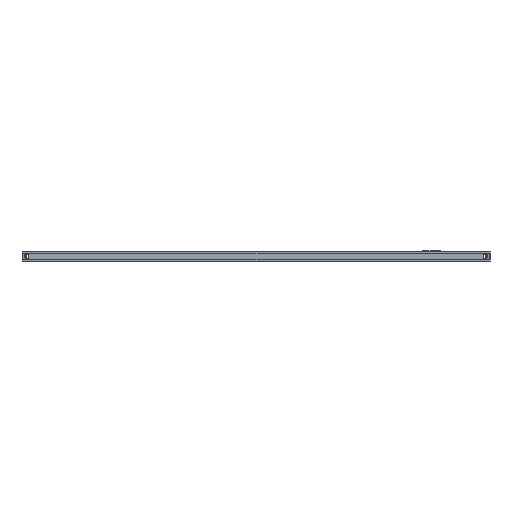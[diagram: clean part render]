
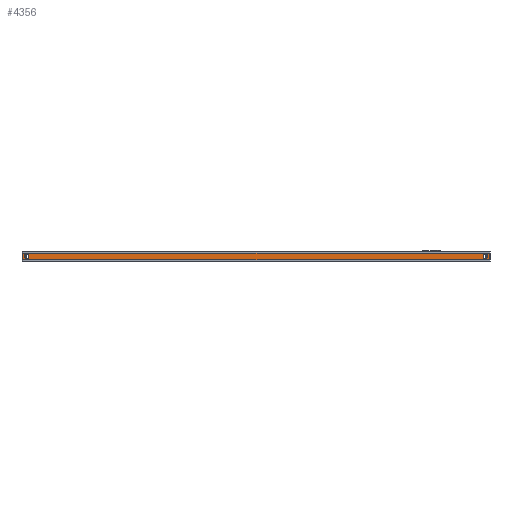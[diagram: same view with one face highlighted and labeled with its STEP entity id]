
A CAD part, left-side view. The second image highlights one B-rep face of the part: STEP entity #4356.
In plain terms, the highlighted planar face has unit normal (-1, 0, 0).
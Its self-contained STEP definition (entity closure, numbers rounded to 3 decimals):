
#161 = DIRECTION ( 'NONE',  ( 0., 0., -1. ) ) ;
#272 = DIRECTION ( 'NONE',  ( 0., 1., 0. ) ) ;
#323 = DIRECTION ( 'NONE',  ( 1., 0., 0. ) ) ;
#491 = AXIS2_PLACEMENT_3D ( 'NONE', #1813, #8170, #272 ) ;
#840 = ORIENTED_EDGE ( 'NONE', *, *, #3461, .F. ) ;
#972 = CARTESIAN_POINT ( 'NONE',  ( -295., 304., -8.5 ) ) ;
#985 = LINE ( 'NONE', #8936, #2738 ) ;
#1127 = DIRECTION ( 'NONE',  ( 0., 1., 0. ) ) ;
#1131 = EDGE_CURVE ( 'NONE', #10161, #7182, #3348, .T. ) ;
#1221 = CARTESIAN_POINT ( 'NONE',  ( -295., 304., -8.5 ) ) ;
#1280 = EDGE_CURVE ( 'NONE', #5041, #7681, #6457, .T. ) ;
#1375 = DIRECTION ( 'NONE',  ( 0., -1., 0. ) ) ;
#1813 = CARTESIAN_POINT ( 'NONE',  ( -295., -299., -4. ) ) ;
#1905 = DIRECTION ( 'NONE',  ( 0., 0., 1. ) ) ;
#1982 = ORIENTED_EDGE ( 'NONE', *, *, #3757, .T. ) ;
#2335 = VERTEX_POINT ( 'NONE', #4964 ) ;
#2480 = DIRECTION ( 'NONE',  ( -1., 0., 0. ) ) ;
#2547 = AXIS2_PLACEMENT_3D ( 'NONE', #3952, #2480, #8766 ) ;
#2651 = EDGE_CURVE ( 'NONE', #7182, #10161, #5863, .T. ) ;
#2713 = DIRECTION ( 'NONE',  ( -1., 0., 0. ) ) ;
#2738 = VECTOR ( 'NONE', #9766, 1000. ) ;
#2845 = ORIENTED_EDGE ( 'NONE', *, *, #3478, .F. ) ;
#3001 = CARTESIAN_POINT ( 'NONE',  ( -295., 299., -4. ) ) ;
#3348 = CIRCLE ( 'NONE', #2547, 3. ) ;
#3426 = EDGE_LOOP ( 'NONE', ( #4637, #3428 ) ) ;
#3428 = ORIENTED_EDGE ( 'NONE', *, *, #2651, .F. ) ;
#3461 = EDGE_CURVE ( 'NONE', #2335, #9197, #8077, .T. ) ;
#3478 = EDGE_CURVE ( 'NONE', #5041, #4989, #3764, .T. ) ;
#3610 = ORIENTED_EDGE ( 'NONE', *, *, #3769, .F. ) ;
#3757 = EDGE_CURVE ( 'NONE', #7681, #3786, #985, .T. ) ;
#3764 = LINE ( 'NONE', #4519, #7724 ) ;
#3769 = EDGE_CURVE ( 'NONE', #9197, #2335, #5089, .T. ) ;
#3786 = VERTEX_POINT ( 'NONE', #5813 ) ;
#3952 = CARTESIAN_POINT ( 'NONE',  ( -295., -299., -4. ) ) ;
#4356 = ADVANCED_FACE ( 'NONE', ( #7089, #5829, #7835 ), #8815, .F. ) ;
#4519 = CARTESIAN_POINT ( 'NONE',  ( -295., 305., 0. ) ) ;
#4637 = ORIENTED_EDGE ( 'NONE', *, *, #1131, .F. ) ;
#4938 = CARTESIAN_POINT ( 'NONE',  ( -295., 299., -4. ) ) ;
#4964 = CARTESIAN_POINT ( 'NONE',  ( -295., 302., -4. ) ) ;
#4989 = VERTEX_POINT ( 'NONE', #6245 ) ;
#5041 = VERTEX_POINT ( 'NONE', #6204 ) ;
#5089 = CIRCLE ( 'NONE', #9668, 3. ) ;
#5092 = DIRECTION ( 'NONE',  ( 0., -1., 0. ) ) ;
#5695 = VECTOR ( 'NONE', #161, 1000. ) ;
#5813 = CARTESIAN_POINT ( 'NONE',  ( -295., -304., -8.5 ) ) ;
#5829 = FACE_BOUND ( 'NONE', #6936, .T. ) ;
#5863 = CIRCLE ( 'NONE', #491, 3. ) ;
#6088 = DIRECTION ( 'NONE',  ( 0., 1., 0. ) ) ;
#6204 = CARTESIAN_POINT ( 'NONE',  ( -295., 304., 0. ) ) ;
#6245 = CARTESIAN_POINT ( 'NONE',  ( -295., -304., 0. ) ) ;
#6457 = LINE ( 'NONE', #972, #5695 ) ;
#6936 = EDGE_LOOP ( 'NONE', ( #840, #3610 ) ) ;
#7089 = FACE_BOUND ( 'NONE', #3426, .T. ) ;
#7182 = VERTEX_POINT ( 'NONE', #8999 ) ;
#7332 = ORIENTED_EDGE ( 'NONE', *, *, #7833, .T. ) ;
#7681 = VERTEX_POINT ( 'NONE', #1221 ) ;
#7724 = VECTOR ( 'NONE', #1375, 1000. ) ;
#7758 = CARTESIAN_POINT ( 'NONE',  ( -295., 296., -4. ) ) ;
#7833 = EDGE_CURVE ( 'NONE', #3786, #4989, #8220, .T. ) ;
#7835 = FACE_OUTER_BOUND ( 'NONE', #9909, .T. ) ;
#8077 = CIRCLE ( 'NONE', #9874, 3. ) ;
#8149 = CARTESIAN_POINT ( 'NONE',  ( -295., -296., -4. ) ) ;
#8170 = DIRECTION ( 'NONE',  ( -1., 0., 0. ) ) ;
#8210 = AXIS2_PLACEMENT_3D ( 'NONE', #8911, #323, #5092 ) ;
#8220 = LINE ( 'NONE', #9890, #8359 ) ;
#8359 = VECTOR ( 'NONE', #1905, 1000. ) ;
#8766 = DIRECTION ( 'NONE',  ( 0., 1., 0. ) ) ;
#8815 = PLANE ( 'NONE',  #8210 ) ;
#8911 = CARTESIAN_POINT ( 'NONE',  ( -295., 305., -8.5 ) ) ;
#8936 = CARTESIAN_POINT ( 'NONE',  ( -295., 305., -8.5 ) ) ;
#8999 = CARTESIAN_POINT ( 'NONE',  ( -295., -302., -4. ) ) ;
#9082 = DIRECTION ( 'NONE',  ( -1., 0., 0. ) ) ;
#9197 = VERTEX_POINT ( 'NONE', #7758 ) ;
#9276 = ORIENTED_EDGE ( 'NONE', *, *, #1280, .T. ) ;
#9668 = AXIS2_PLACEMENT_3D ( 'NONE', #4938, #9082, #1127 ) ;
#9766 = DIRECTION ( 'NONE',  ( 0., -1., 0. ) ) ;
#9874 = AXIS2_PLACEMENT_3D ( 'NONE', #3001, #2713, #6088 ) ;
#9890 = CARTESIAN_POINT ( 'NONE',  ( -295., -304., -8.5 ) ) ;
#9909 = EDGE_LOOP ( 'NONE', ( #2845, #9276, #1982, #7332 ) ) ;
#10161 = VERTEX_POINT ( 'NONE', #8149 ) ;
